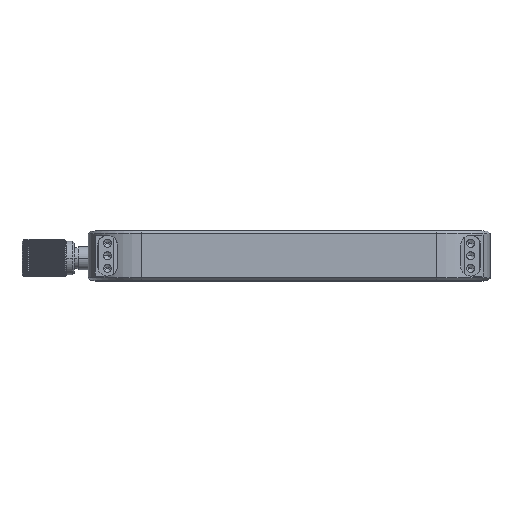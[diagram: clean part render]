
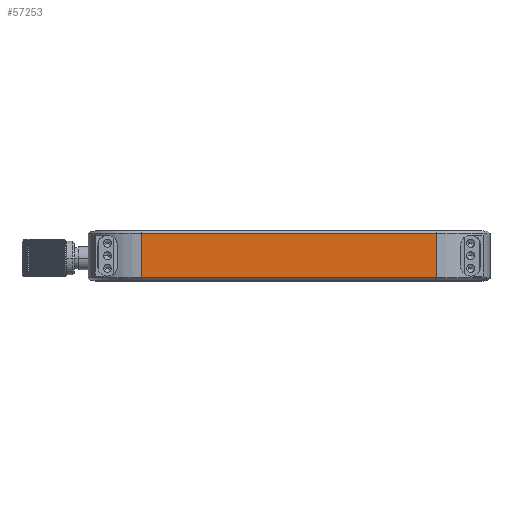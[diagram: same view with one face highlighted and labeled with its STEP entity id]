
A CAD part, top view. The second image highlights one B-rep face of the part: STEP entity #57253.
In plain terms, the highlighted planar face has unit normal (0, 0, 1).
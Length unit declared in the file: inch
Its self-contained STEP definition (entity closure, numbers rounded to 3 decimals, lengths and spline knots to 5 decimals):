
#595 = VECTOR ( 'NONE', #26829, 39.37008 ) ;
#901 = LINE ( 'NONE', #23878, #24116 ) ;
#1239 = LINE ( 'NONE', #33194, #55342 ) ;
#1631 = DIRECTION ( 'NONE',  ( 0., -1., 0. ) ) ;
#2385 = VERTEX_POINT ( 'NONE', #34136 ) ;
#3525 = ORIENTED_EDGE ( 'NONE', *, *, #68392, .T. ) ;
#4507 = ORIENTED_EDGE ( 'NONE', *, *, #39032, .F. ) ;
#4939 = LINE ( 'NONE', #26466, #595 ) ;
#4976 = CARTESIAN_POINT ( 'NONE',  ( -1.175, 0.177, 1.475 ) ) ;
#6768 = FACE_OUTER_BOUND ( 'NONE', #15273, .T. ) ;
#7565 = VERTEX_POINT ( 'NONE', #36854 ) ;
#15273 = EDGE_LOOP ( 'NONE', ( #19393, #3525, #4507, #24648 ) ) ;
#17065 = CARTESIAN_POINT ( 'NONE',  ( -1.175, 0.177, 1.475 ) ) ;
#17128 = VERTEX_POINT ( 'NONE', #17065 ) ;
#17193 = CARTESIAN_POINT ( 'NONE',  ( -1.175, 0.197, 1.475 ) ) ;
#19393 = ORIENTED_EDGE ( 'NONE', *, *, #70698, .T. ) ;
#21534 = VERTEX_POINT ( 'NONE', #71016 ) ;
#22015 = AXIS2_PLACEMENT_3D ( 'NONE', #17193, #39035, #61030 ) ;
#23878 = CARTESIAN_POINT ( 'NONE',  ( 1.175, 0.197, 1.475 ) ) ;
#24116 = VECTOR ( 'NONE', #1631, 39.37008 ) ;
#24648 = ORIENTED_EDGE ( 'NONE', *, *, #28338, .T. ) ;
#26466 = CARTESIAN_POINT ( 'NONE',  ( -1.175, 0.197, 1.475 ) ) ;
#26829 = DIRECTION ( 'NONE',  ( 0., -1., 0. ) ) ;
#28338 = EDGE_CURVE ( 'NONE', #2385, #17128, #70383, .T. ) ;
#33194 = CARTESIAN_POINT ( 'NONE',  ( 1.175, -0.177, 1.475 ) ) ;
#34136 = CARTESIAN_POINT ( 'NONE',  ( 1.175, 0.177, 1.475 ) ) ;
#36854 = CARTESIAN_POINT ( 'NONE',  ( -1.175, -0.177, 1.475 ) ) ;
#39032 = EDGE_CURVE ( 'NONE', #2385, #21534, #901, .T. ) ;
#39035 = DIRECTION ( 'NONE',  ( 0., 0., -1. ) ) ;
#46077 = VECTOR ( 'NONE', #53763, 39.37008 ) ;
#53763 = DIRECTION ( 'NONE',  ( -1., 0., 0. ) ) ;
#55342 = VECTOR ( 'NONE', #67357, 39.37008 ) ;
#57253 = ADVANCED_FACE ( 'NONE', ( #6768 ), #61731, .F. ) ;
#61030 = DIRECTION ( 'NONE',  ( -1., 0., 0. ) ) ;
#61731 = PLANE ( 'NONE',  #22015 ) ;
#67357 = DIRECTION ( 'NONE',  ( 1., 0., 0. ) ) ;
#68392 = EDGE_CURVE ( 'NONE', #7565, #21534, #1239, .T. ) ;
#70383 = LINE ( 'NONE', #4976, #46077 ) ;
#70698 = EDGE_CURVE ( 'NONE', #17128, #7565, #4939, .T. ) ;
#71016 = CARTESIAN_POINT ( 'NONE',  ( 1.175, -0.177, 1.475 ) ) ;
